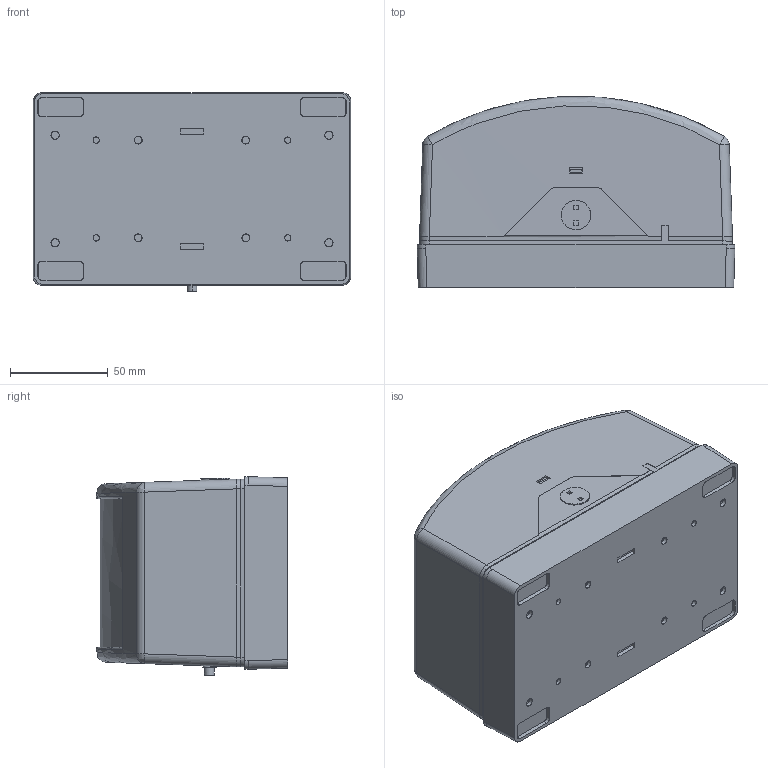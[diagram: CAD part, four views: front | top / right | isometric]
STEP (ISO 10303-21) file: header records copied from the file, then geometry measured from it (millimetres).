
FILE_DESCRIPTION (( 'STEP AP214' ), '1' );
FILE_NAME ('ÀÒÏÍ.425231.001 Èçâåùàòåëü ÈÏÄË-Ä-I_4p.STEP', '2026-06-09T13:45:06', ( '' ), ( '' ), 'SwSTEP 2.0', 'SolidWorks 2023', '' );
FILE_SCHEMA (( 'AUTOMOTIVE_DESIGN' ));
Length unit declared in the file: millimetre
Products named in the file (1): АТПН.425231.001 Извещатель ИПДЛ-Д-I_4p
Bounding box: 162.5 x 97.79 x 101.59 mm (x, y, z)
Volume: 1342643.5 mm3; surface area: 75175.8 mm2
Topology: 1 solids, 1 shells, 191 faces, 466 edges, 305 vertices
Faces by surface type: plane 111, bspline 80
Entity records: 7544 total; most frequent: CARTESIAN_POINT 4382, ORIENTED_EDGE 900, EDGE_CURVE 450, B_SPLINE_CURVE_WITH_KNOTS 384, VERTEX_POINT 301, EDGE_LOOP 231, DIRECTION 224, FACE_OUTER_BOUND 203
